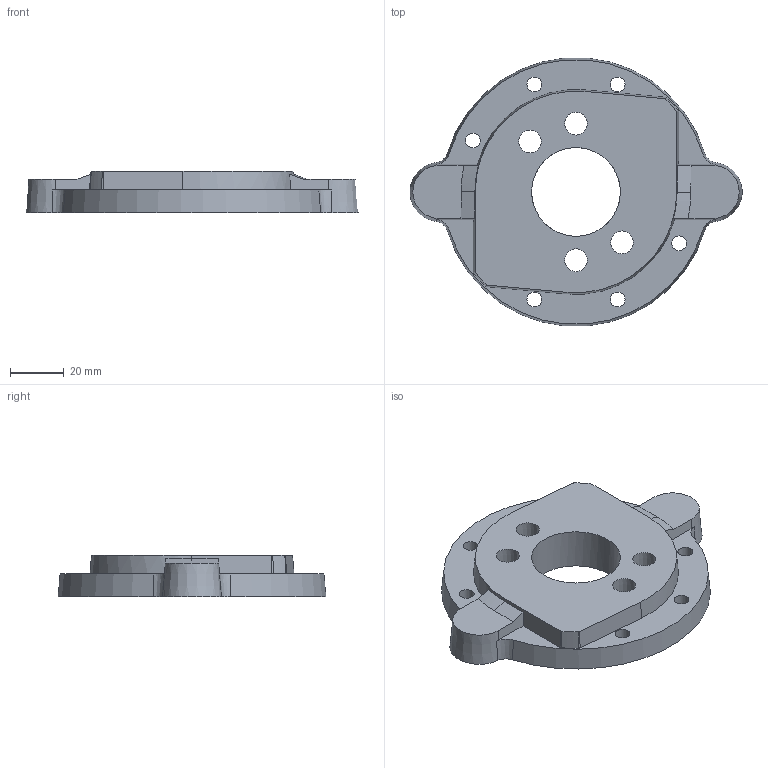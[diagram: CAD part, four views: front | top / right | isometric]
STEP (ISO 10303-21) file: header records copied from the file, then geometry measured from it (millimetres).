
FILE_DESCRIPTION(/* description */ ('Unknown'),/* implementation_level */ '2;1');
FILE_NAME(/* name */ 'SP1608',/* time_stamp */ '2016-01-21T15:27:36+00:00',/* author */ ('Unknown'),/* organization */ ('Unknown'),/* preprocessor_version */ 'ST-DEVELOPER v16.7',/* originating_system */ 'DEX',/* authorisation */ $);
FILE_SCHEMA (('AUTOMOTIVE_DESIGN { 1 0 10303 214 3 1 1 }','AUTOMOTIVE_DESIGN {1 0 10303 214 3 1 1}'));
Length unit declared in the file: millimetre
Products named in the file (1): SP1608
Bounding box: 123.52 x 99.64 x 15.5 mm (x, y, z)
Volume: 89588.1 mm3; surface area: 22869.1 mm2
Topology: 1 solids, 1 shells, 45 faces, 138 edges, 95 vertices
Faces by surface type: cone 22, plane 16, cylinder 7
Full cylindrical faces by diameter (mm): 5.5 x6, 33 x1
Entity records: 1819 total; most frequent: DIRECTION 270, CARTESIAN_POINT 252, ORIENTED_EDGE 232, EDGE_CURVE 116, AXIS2_PLACEMENT_3D 110, VERTEX_POINT 84, EDGE_LOOP 78, FACE_BOUND 78
